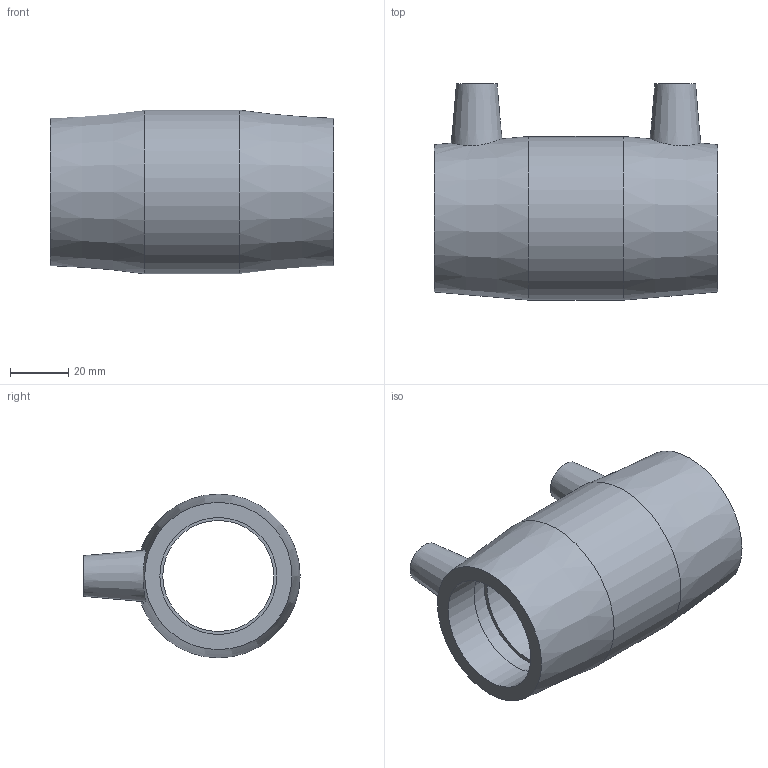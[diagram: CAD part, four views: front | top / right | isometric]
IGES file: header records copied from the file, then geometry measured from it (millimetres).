
Global section: file name: 490104040.ipt; native system: Autodesk Inventor 2015; preprocessor: unknown; author: KIM; date: 20190124.130024; units: millimetre
Bounding box: 97 x 74 x 56 mm (x, y, z)
Volume: 106778.7 mm3; surface area: 33854.6 mm2
Topology: 1 solids, 1 shells, 28 faces, 64 edges, 46 vertices
Faces by surface type: plane 12, revolution 9, cone 4, cylinder 3
Full cylindrical faces by diameter (mm): 4 x2, 56 x1
